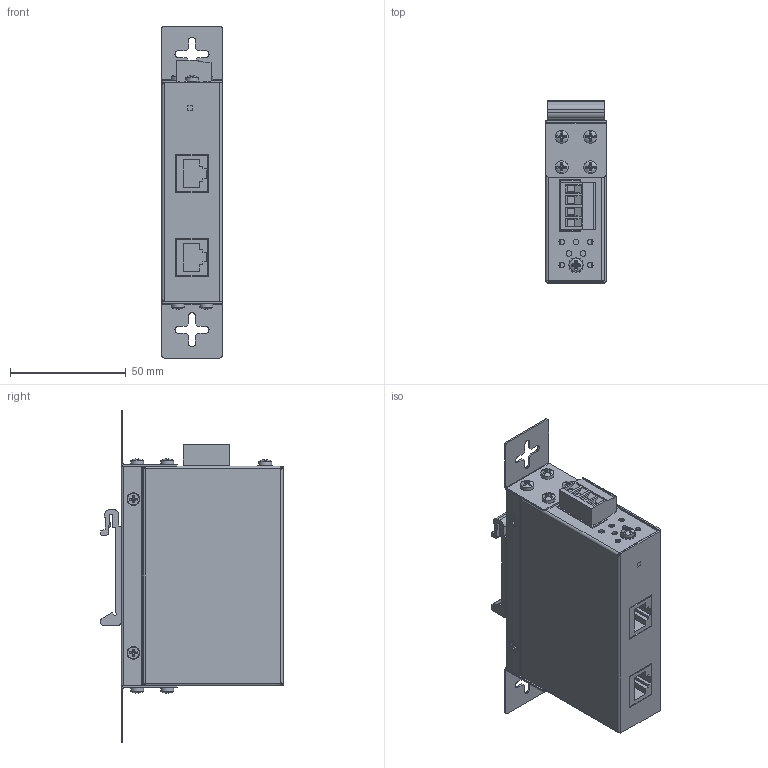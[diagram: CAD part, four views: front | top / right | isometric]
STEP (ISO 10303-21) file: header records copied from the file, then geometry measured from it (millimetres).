
FILE_DESCRIPTION(/* description */ ('STEP AP242','CAx-IF Rec.Pracs.---Representation and Presentation of Product Manufacturing Information (PMI)---4.0---2014-10-13','CAx-IF Rec.Pracs.---3D Tessellated Geometry---0.4---2014-09-14','2;1'),/* implementation_level */ '2;1');
FILE_NAME(/* name */ '67be2c8ede1d9709ed3807ce',/* time_stamp */ '2025-02-25T20:48:15Z',/* author */ (''),/* organization */ (''),/* preprocessor_version */ 'ST-DEVELOPER v20',/* originating_system */ 'ONSHAPE BY PTC INC, 1.194',/* authorisation */ ' ');
FILE_SCHEMA (('AP242_MANAGED_MODEL_BASED_3D_ENGINEERING_MIM_LF { 1 0 10303 442 1 1 4 }'));
Length unit declared in the file: metre
Products named in the file (13): SD-001 - Rev A - 1-port Gigabit PoE Splitter; PH Countersunk flat head screw M3x0.5 x 4; PH Pan head screw M3x0.50 x 5; PH Pan head screw M3x0.50 x 3; Front Housing; DIN Clip; Ethernet; Rear Housing; Wall Mount Ear; Plug; Type A external tooth lock washer #4; Terminal Block
Assembly tree (24 placements, depth 2):
  SD-001 - Rev A - 1-port Gigabit PoE Splitter
    PH Countersunk flat head screw M3x0.5 x 4  x5
    PH Pan head screw M3x0.50 x 5
    PH Pan head screw M3x0.50 x 3  x8
    Front Housing
    DIN Clip
    Ethernet  x2
    Rear Housing
    Wall Mount Ear
    Wall Mount Ear
    Plug
    Type A external tooth lock washer #4
    Terminal Block
Bounding box: 26.1 x 78.86 x 143.5 mm (x, y, z)
Volume: 34622.5 mm3; surface area: 63256.9 mm2
Topology: 24 solids, 24 shells, 1312 faces, 3438 edges, 2212 vertices
Faces by surface type: plane 977, cylinder 256, cone 46, torus 16, sphere 13, bspline 4
Full cylindrical faces by diameter (mm): 1.4 x4, 1.5 x1, 2.4 x38, 2.5 x9, 2.8 x6, 3 x14, 3.124 x1, 3.2 x3, 3.4 x8, 3.783 x4, 4 x4, 5.5 x5, 5.6 x9
Entity records: 28648 total; most frequent: CARTESIAN_POINT 5327, DIRECTION 4719, ORIENTED_EDGE 4584, EDGE_CURVE 2292, LINE 1681, VECTOR 1681, VERTEX_POINT 1523, AXIS2_PLACEMENT_3D 1519
